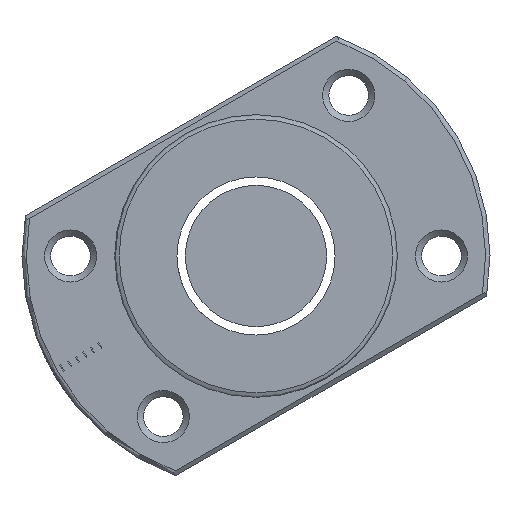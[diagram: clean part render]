
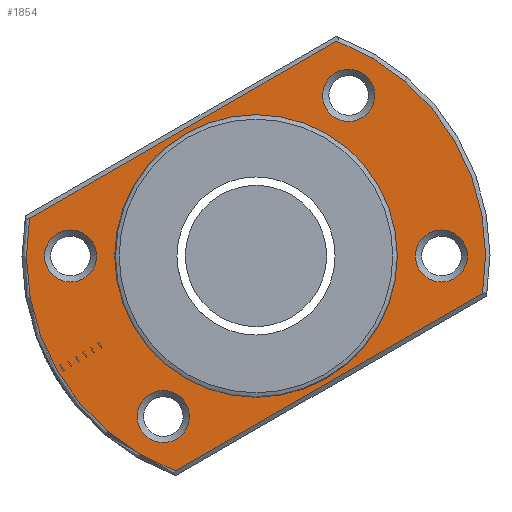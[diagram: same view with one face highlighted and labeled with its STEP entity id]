
A CAD part, left-side view. The second image highlights one B-rep face of the part: STEP entity #1854.
In plain terms, the highlighted planar face has unit normal (-1, 0, 0).
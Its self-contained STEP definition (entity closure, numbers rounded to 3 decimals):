
#26 = EDGE_CURVE ( 'NONE', #844, #844, #985, .T. ) ;
#87 = EDGE_LOOP ( 'NONE', ( #2551 ) ) ;
#139 = AXIS2_PLACEMENT_3D ( 'NONE', #2793, #2534, #1384 ) ;
#141 = VERTEX_POINT ( 'NONE', #1303 ) ;
#165 = CARTESIAN_POINT ( 'NONE',  ( -64.4, 21., 0. ) ) ;
#207 = FACE_OUTER_BOUND ( 'NONE', #2781, .T. ) ;
#234 = DIRECTION ( 'NONE',  ( -1., 0., 0. ) ) ;
#244 = VERTEX_POINT ( 'NONE', #253 ) ;
#253 = CARTESIAN_POINT ( 'NONE',  ( -64.4, 9.152, -24.336 ) ) ;
#256 = ORIENTED_EDGE ( 'NONE', *, *, #570, .T. ) ;
#348 = ORIENTED_EDGE ( 'NONE', *, *, #2070, .T. ) ;
#350 = AXIS2_PLACEMENT_3D ( 'NONE', #912, #1894, #1711 ) ;
#436 = FACE_BOUND ( 'NONE', #675, .T. ) ;
#453 = CARTESIAN_POINT ( 'NONE',  ( -64.4, 28.125, 2.815 ) ) ;
#455 = AXIS2_PLACEMENT_3D ( 'NONE', #165, #2923, #1089 ) ;
#514 = CARTESIAN_POINT ( 'NONE',  ( -64.4, 26.5, 0. ) ) ;
#530 = EDGE_CURVE ( 'NONE', #141, #141, #2381, .T. ) ;
#570 = EDGE_CURVE ( 'NONE', #2294, #1177, #2236, .T. ) ;
#575 = DIRECTION ( 'NONE',  ( 0., 0., 1. ) ) ;
#657 = CARTESIAN_POINT ( 'NONE',  ( -64.4, 25.652, 4.243 ) ) ;
#660 = ORIENTED_EDGE ( 'NONE', *, *, #2035, .T. ) ;
#675 = EDGE_LOOP ( 'NONE', ( #1119 ) ) ;
#698 = AXIS2_PLACEMENT_3D ( 'NONE', #514, #951, #2531 ) ;
#762 = ORIENTED_EDGE ( 'NONE', *, *, #1980, .T. ) ;
#803 = DIRECTION ( 'NONE',  ( 1., 0., 0. ) ) ;
#837 = CIRCLE ( 'NONE', #2513, 26. ) ;
#844 = VERTEX_POINT ( 'NONE', #2464 ) ;
#867 = DIRECTION ( 'NONE',  ( 0., 0., 1. ) ) ;
#892 = DIRECTION ( 'NONE',  ( 0., -0.866, 0.5 ) ) ;
#912 = CARTESIAN_POINT ( 'NONE',  ( -64.4, 10.5, -18.187 ) ) ;
#951 = DIRECTION ( 'NONE',  ( -1., 0., 0. ) ) ;
#985 = CIRCLE ( 'NONE', #1798, 2.95 ) ;
#992 = ORIENTED_EDGE ( 'NONE', *, *, #1499, .T. ) ;
#1075 = CIRCLE ( 'NONE', #2418, 2.95 ) ;
#1089 = DIRECTION ( 'NONE',  ( 0., 0., 1. ) ) ;
#1119 = ORIENTED_EDGE ( 'NONE', *, *, #26, .T. ) ;
#1161 = DIRECTION ( 'NONE',  ( 0., 0.866, -0.5 ) ) ;
#1177 = VERTEX_POINT ( 'NONE', #1579 ) ;
#1180 = CARTESIAN_POINT ( 'NONE',  ( -64.4, 10.5, -15.237 ) ) ;
#1303 = CARTESIAN_POINT ( 'NONE',  ( -64.4, 21., 2.95 ) ) ;
#1325 = DIRECTION ( 'NONE',  ( -1., 0., 0. ) ) ;
#1352 = FACE_BOUND ( 'NONE', #1700, .T. ) ;
#1374 = EDGE_LOOP ( 'NONE', ( #660 ) ) ;
#1384 = DIRECTION ( 'NONE',  ( 0., 0., -1. ) ) ;
#1499 = EDGE_CURVE ( 'NONE', #1769, #1769, #1680, .T. ) ;
#1555 = EDGE_LOOP ( 'NONE', ( #348 ) ) ;
#1579 = CARTESIAN_POINT ( 'NONE',  ( -64.4, -9.152, 24.336 ) ) ;
#1601 = VERTEX_POINT ( 'NONE', #657 ) ;
#1648 = VERTEX_POINT ( 'NONE', #1180 ) ;
#1680 = CIRCLE ( 'NONE', #139, 16. ) ;
#1700 = EDGE_LOOP ( 'NONE', ( #992 ) ) ;
#1711 = DIRECTION ( 'NONE',  ( 0., 0., 1. ) ) ;
#1713 = DIRECTION ( 'NONE',  ( 0., 0., 1. ) ) ;
#1737 = CARTESIAN_POINT ( 'NONE',  ( -64.4, 0., -16. ) ) ;
#1769 = VERTEX_POINT ( 'NONE', #1737 ) ;
#1779 = ORIENTED_EDGE ( 'NONE', *, *, #2129, .T. ) ;
#1790 = FACE_BOUND ( 'NONE', #87, .T. ) ;
#1798 = AXIS2_PLACEMENT_3D ( 'NONE', #2863, #803, #1713 ) ;
#1854 = ADVANCED_FACE ( 'NONE', ( #2499, #436, #2937, #1790, #1352, #207 ), #1971, .T. ) ;
#1860 = VERTEX_POINT ( 'NONE', #2329 ) ;
#1894 = DIRECTION ( 'NONE',  ( 1., 0., 0. ) ) ;
#1938 = DIRECTION ( 'NONE',  ( 1., 0., 0. ) ) ;
#1971 = PLANE ( 'NONE',  #698 ) ;
#1980 = EDGE_CURVE ( 'NONE', #1177, #1601, #2306, .T. ) ;
#2004 = CARTESIAN_POINT ( 'NONE',  ( -64.4, 0., 0. ) ) ;
#2035 = EDGE_CURVE ( 'NONE', #1648, #1648, #2322, .T. ) ;
#2070 = EDGE_CURVE ( 'NONE', #1860, #1860, #1075, .T. ) ;
#2129 = EDGE_CURVE ( 'NONE', #244, #2294, #2256, .T. ) ;
#2178 = VECTOR ( 'NONE', #892, 1000. ) ;
#2236 = CIRCLE ( 'NONE', #2619, 26. ) ;
#2256 = LINE ( 'NONE', #2947, #2178 ) ;
#2294 = VERTEX_POINT ( 'NONE', #2911 ) ;
#2306 = LINE ( 'NONE', #453, #2562 ) ;
#2322 = CIRCLE ( 'NONE', #350, 2.95 ) ;
#2329 = CARTESIAN_POINT ( 'NONE',  ( -64.4, -10.5, 21.137 ) ) ;
#2379 = CARTESIAN_POINT ( 'NONE',  ( -64.4, -10.5, 18.187 ) ) ;
#2381 = CIRCLE ( 'NONE', #455, 2.95 ) ;
#2418 = AXIS2_PLACEMENT_3D ( 'NONE', #2379, #1938, #575 ) ;
#2464 = CARTESIAN_POINT ( 'NONE',  ( -64.4, -21., 2.95 ) ) ;
#2499 = FACE_BOUND ( 'NONE', #1374, .T. ) ;
#2512 = CARTESIAN_POINT ( 'NONE',  ( -64.4, 0., 0. ) ) ;
#2513 = AXIS2_PLACEMENT_3D ( 'NONE', #2512, #234, #2742 ) ;
#2531 = DIRECTION ( 'NONE',  ( 0., 0., 1. ) ) ;
#2534 = DIRECTION ( 'NONE',  ( 1., 0., 0. ) ) ;
#2551 = ORIENTED_EDGE ( 'NONE', *, *, #530, .T. ) ;
#2562 = VECTOR ( 'NONE', #1161, 1000. ) ;
#2571 = EDGE_CURVE ( 'NONE', #1601, #244, #837, .T. ) ;
#2619 = AXIS2_PLACEMENT_3D ( 'NONE', #2004, #1325, #867 ) ;
#2673 = ORIENTED_EDGE ( 'NONE', *, *, #2571, .T. ) ;
#2742 = DIRECTION ( 'NONE',  ( 0., 0., 1. ) ) ;
#2781 = EDGE_LOOP ( 'NONE', ( #762, #2673, #1779, #256 ) ) ;
#2793 = CARTESIAN_POINT ( 'NONE',  ( -64.4, 0., 0. ) ) ;
#2863 = CARTESIAN_POINT ( 'NONE',  ( -64.4, -21., 0. ) ) ;
#2911 = CARTESIAN_POINT ( 'NONE',  ( -64.4, -25.652, -4.243 ) ) ;
#2923 = DIRECTION ( 'NONE',  ( 1., 0., 0. ) ) ;
#2937 = FACE_BOUND ( 'NONE', #1555, .T. ) ;
#2947 = CARTESIAN_POINT ( 'NONE',  ( -64.4, 11.625, -25.764 ) ) ;
